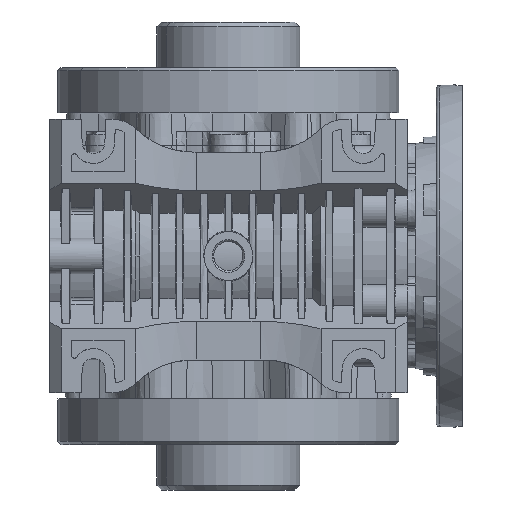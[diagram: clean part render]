
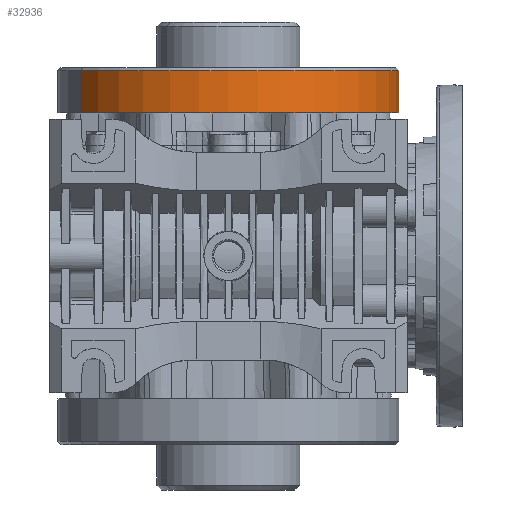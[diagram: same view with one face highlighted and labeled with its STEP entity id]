
A CAD part, front view. The second image highlights one B-rep face of the part: STEP entity #32936.
In plain terms, the highlighted cylindrical face has radius 52.5 mm (diameter 105 mm), a partial arc.
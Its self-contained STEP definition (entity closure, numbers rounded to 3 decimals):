
#2178 = EDGE_CURVE ( 'NONE', #63749, #27183, #94249, .T. ) ;
#2250 = EDGE_CURVE ( 'NONE', #51853, #6654, #75316, .T. ) ;
#5200 = VECTOR ( 'NONE', #95734, 1000. ) ;
#6626 = DIRECTION ( 'NONE',  ( 0., 0., -1. ) ) ;
#6654 = VERTEX_POINT ( 'NONE', #7038 ) ;
#7038 = CARTESIAN_POINT ( 'NONE',  ( -45.466, -26.25, 44. ) ) ;
#9097 = CARTESIAN_POINT ( 'NONE',  ( 0., 0., 44. ) ) ;
#9134 = CARTESIAN_POINT ( 'NONE',  ( 45.466, 26.25, 57. ) ) ;
#13086 = CARTESIAN_POINT ( 'NONE',  ( -45.466, -26.25, 44. ) ) ;
#13789 = EDGE_CURVE ( 'NONE', #63749, #51853, #85103, .T. ) ;
#16303 = DIRECTION ( 'NONE',  ( 0., 0., -1. ) ) ;
#20996 = VECTOR ( 'NONE', #47997, 1000. ) ;
#27183 = VERTEX_POINT ( 'NONE', #56382 ) ;
#28968 = DIRECTION ( 'NONE',  ( -0.866, -0.5, 0. ) ) ;
#30744 = CARTESIAN_POINT ( 'NONE',  ( 0., 0., 57. ) ) ;
#31701 = ORIENTED_EDGE ( 'NONE', *, *, #13789, .T. ) ;
#32936 = ADVANCED_FACE ( 'NONE', ( #97172 ), #44413, .T. ) ;
#39422 = DIRECTION ( 'NONE',  ( -0.866, -0.5, 0. ) ) ;
#40069 = ORIENTED_EDGE ( 'NONE', *, *, #2250, .T. ) ;
#44413 = CYLINDRICAL_SURFACE ( 'NONE', #74948, 52.5 ) ;
#47997 = DIRECTION ( 'NONE',  ( 0., 0., -1. ) ) ;
#51853 = VERTEX_POINT ( 'NONE', #61252 ) ;
#55426 = CARTESIAN_POINT ( 'NONE',  ( 45.466, 26.25, 44. ) ) ;
#55516 = ORIENTED_EDGE ( 'NONE', *, *, #87286, .F. ) ;
#56382 = CARTESIAN_POINT ( 'NONE',  ( 45.466, 26.25, 44. ) ) ;
#56788 = ORIENTED_EDGE ( 'NONE', *, *, #2178, .F. ) ;
#58323 = EDGE_LOOP ( 'NONE', ( #56788, #31701, #40069, #55516 ) ) ;
#61252 = CARTESIAN_POINT ( 'NONE',  ( -45.466, -26.25, 57. ) ) ;
#63749 = VERTEX_POINT ( 'NONE', #9134 ) ;
#69800 = CIRCLE ( 'NONE', #92053, 52.5 ) ;
#70757 = DIRECTION ( 'NONE',  ( 0., 0., -1. ) ) ;
#74948 = AXIS2_PLACEMENT_3D ( 'NONE', #95710, #6626, #28968 ) ;
#75316 = LINE ( 'NONE', #13086, #5200 ) ;
#76085 = DIRECTION ( 'NONE',  ( -0.866, -0.5, 0. ) ) ;
#81916 = AXIS2_PLACEMENT_3D ( 'NONE', #30744, #16303, #76085 ) ;
#85103 = CIRCLE ( 'NONE', #81916, 52.5 ) ;
#87286 = EDGE_CURVE ( 'NONE', #27183, #6654, #69800, .T. ) ;
#92053 = AXIS2_PLACEMENT_3D ( 'NONE', #9097, #70757, #39422 ) ;
#94249 = LINE ( 'NONE', #55426, #20996 ) ;
#95710 = CARTESIAN_POINT ( 'NONE',  ( 0., 0., 44. ) ) ;
#95734 = DIRECTION ( 'NONE',  ( 0., 0., -1. ) ) ;
#97172 = FACE_OUTER_BOUND ( 'NONE', #58323, .T. ) ;
